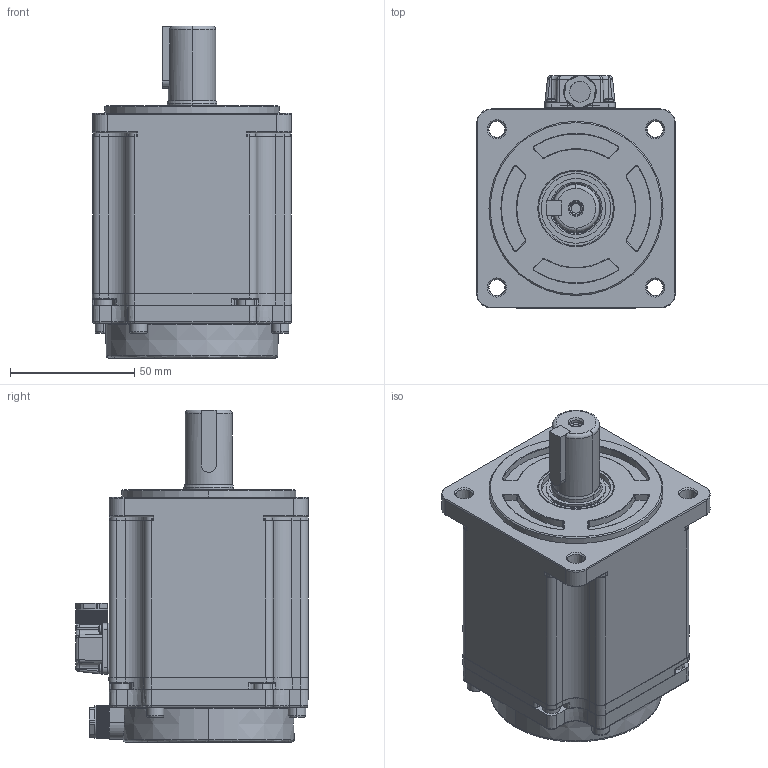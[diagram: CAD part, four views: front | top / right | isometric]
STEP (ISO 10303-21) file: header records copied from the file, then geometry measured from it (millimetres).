
FILE_DESCRIPTION (( 'STEP AP203' ), '1' );
FILE_NAME ('G3系列80ST-750W标准电机三维图.STEP', '2020-11-02T11:24:33', ( '微软用户' ), ( '微软中国' ), 'SwSTEP 2.0', 'SolidWorks 2016', '' );
FILE_SCHEMA (( 'CONFIG_CONTROL_DESIGN' ));
Length unit declared in the file: millimetre
Products named in the file (1): G3系列80ST-750W标准电机三维图
Bounding box: 80.19 x 93.6 x 133.5 mm (x, y, z)
Volume: 213193.7 mm3; surface area: 116806.5 mm2
Topology: 21 solids, 21 shells, 3147 faces, 7639 edges, 4632 vertices
Faces by surface type: plane 1661, cylinder 588, cone 544, bspline 167, torus 141, sphere 46
Entity records: 96270 total; most frequent: CARTESIAN_POINT 22490, DIRECTION 15825, ORIENTED_EDGE 15246, EDGE_CURVE 7623, AXIS2_PLACEMENT_3D 5730, VERTEX_POINT 4632, LINE 4365, VECTOR 4365
